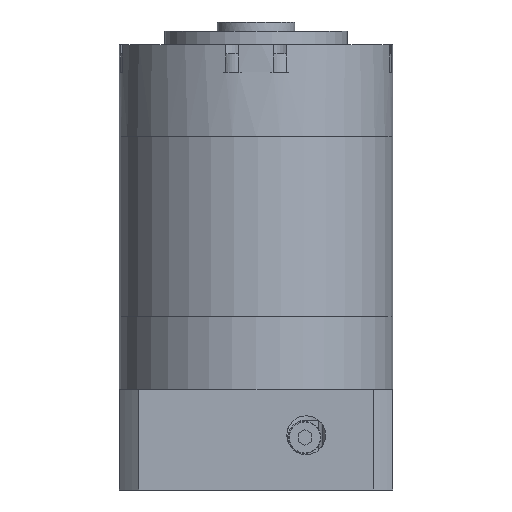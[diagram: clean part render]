
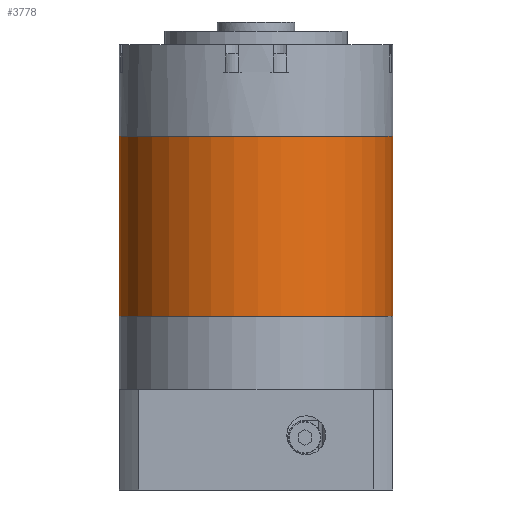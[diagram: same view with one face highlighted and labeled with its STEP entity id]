
A CAD part, front view. The second image highlights one B-rep face of the part: STEP entity #3778.
In plain terms, the highlighted cylindrical face has radius 30 mm (diameter 60 mm), a partial arc.
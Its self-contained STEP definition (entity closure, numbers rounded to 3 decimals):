
#638 = EDGE_CURVE ( 'NONE', #9853, #5908, #10080, .T. ) ;
#2322 = ORIENTED_EDGE ( 'NONE', *, *, #8025, .F. ) ;
#2741 = EDGE_CURVE ( 'NONE', #7696, #9853, #14197, .T. ) ;
#3778 = ADVANCED_FACE ( 'NONE', ( #14919 ), #18595, .T. ) ;
#4096 = CARTESIAN_POINT ( 'NONE',  ( -30., 0., -19.75 ) ) ;
#4288 = ORIENTED_EDGE ( 'NONE', *, *, #16825, .F. ) ;
#4322 = VECTOR ( 'NONE', #14537, 1000. ) ;
#5114 = CARTESIAN_POINT ( 'NONE',  ( 30., 0., 19.75 ) ) ;
#5819 = VECTOR ( 'NONE', #12404, 1000. ) ;
#5908 = VERTEX_POINT ( 'NONE', #5941 ) ;
#5941 = CARTESIAN_POINT ( 'NONE',  ( 30., 0., -19.75 ) ) ;
#6243 = ORIENTED_EDGE ( 'NONE', *, *, #2741, .T. ) ;
#7087 = CARTESIAN_POINT ( 'NONE',  ( 0., 0., 19.75 ) ) ;
#7102 = VERTEX_POINT ( 'NONE', #13984 ) ;
#7352 = EDGE_LOOP ( 'NONE', ( #2322, #4288, #6243, #20262 ) ) ;
#7394 = CARTESIAN_POINT ( 'NONE',  ( -30., 0., 19.75 ) ) ;
#7696 = VERTEX_POINT ( 'NONE', #7394 ) ;
#8025 = EDGE_CURVE ( 'NONE', #7102, #5908, #9009, .T. ) ;
#8156 = DIRECTION ( 'NONE',  ( 0., 0., -1. ) ) ;
#8659 = DIRECTION ( 'NONE',  ( 1., 0., 0. ) ) ;
#9009 = LINE ( 'NONE', #5114, #4322 ) ;
#9853 = VERTEX_POINT ( 'NONE', #4096 ) ;
#9927 = CIRCLE ( 'NONE', #11090, 30. ) ;
#10080 = CIRCLE ( 'NONE', #17002, 30. ) ;
#11090 = AXIS2_PLACEMENT_3D ( 'NONE', #7087, #18092, #8659 ) ;
#12404 = DIRECTION ( 'NONE',  ( 0., 0., -1. ) ) ;
#12529 = AXIS2_PLACEMENT_3D ( 'NONE', #12848, #8156, #14418 ) ;
#12848 = CARTESIAN_POINT ( 'NONE',  ( 0., 0., 19.75 ) ) ;
#13984 = CARTESIAN_POINT ( 'NONE',  ( 30., 0., 19.75 ) ) ;
#14197 = LINE ( 'NONE', #20199, #5819 ) ;
#14418 = DIRECTION ( 'NONE',  ( -1., 0., 0. ) ) ;
#14537 = DIRECTION ( 'NONE',  ( 0., 0., -1. ) ) ;
#14919 = FACE_OUTER_BOUND ( 'NONE', #7352, .T. ) ;
#16825 = EDGE_CURVE ( 'NONE', #7696, #7102, #9927, .T. ) ;
#16995 = DIRECTION ( 'NONE',  ( 0., 0., 1. ) ) ;
#17002 = AXIS2_PLACEMENT_3D ( 'NONE', #18242, #16995, #18861 ) ;
#18092 = DIRECTION ( 'NONE',  ( 0., 0., 1. ) ) ;
#18242 = CARTESIAN_POINT ( 'NONE',  ( 0., 0., -19.75 ) ) ;
#18595 = CYLINDRICAL_SURFACE ( 'NONE', #12529, 30. ) ;
#18861 = DIRECTION ( 'NONE',  ( 1., 0., 0. ) ) ;
#20199 = CARTESIAN_POINT ( 'NONE',  ( -30., 0., 19.75 ) ) ;
#20262 = ORIENTED_EDGE ( 'NONE', *, *, #638, .T. ) ;
